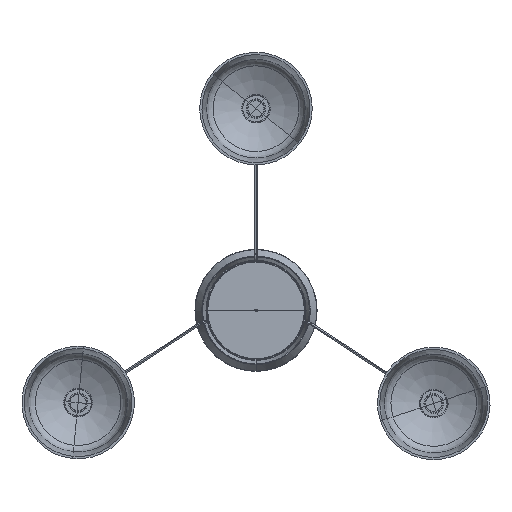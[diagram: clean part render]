
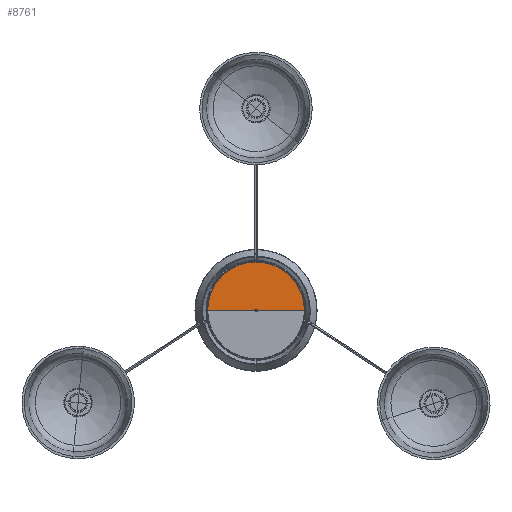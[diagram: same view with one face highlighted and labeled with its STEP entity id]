
A CAD part, top view. The second image highlights one B-rep face of the part: STEP entity #8761.
In plain terms, the highlighted planar face has unit normal (0, 0, 1).
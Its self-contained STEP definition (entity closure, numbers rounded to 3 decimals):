
#1264=FACE_OUTER_BOUND('',#1829,.T.);
#1829=EDGE_LOOP('',(#7303,#7304));
#2334=CIRCLE('',#9644,108.233);
#2862=LINE('',#19309,#3357);
#3357=VECTOR('',#11747,304.8);
#3988=VERTEX_POINT('',#19306);
#3989=VERTEX_POINT('',#19307);
#5143=EDGE_CURVE('',#3989,#3988,#2862,.T.);
#5144=EDGE_CURVE('',#3989,#3988,#2334,.T.);
#7303=ORIENTED_EDGE('',*,*,#5144,.F.);
#7304=ORIENTED_EDGE('',*,*,#5143,.T.);
#8310=PLANE('',#9643);
#8761=ADVANCED_FACE('',(#1264),#8310,.T.);
#9643=AXIS2_PLACEMENT_3D('',#19310,#11748,#11749);
#9644=AXIS2_PLACEMENT_3D('',#19311,#11750,#11751);
#11747=DIRECTION('',(1.,0.,0.));
#11748=DIRECTION('center_axis',(0.,0.,1.));
#11749=DIRECTION('ref_axis',(1.,0.,0.));
#11750=DIRECTION('center_axis',(0.,0.,-1.));
#11751=DIRECTION('ref_axis',(0.809,0.588,0.));
#19306=CARTESIAN_POINT('',(108.233,0.,23.91));
#19307=CARTESIAN_POINT('',(-108.233,0.,23.91));
#19309=CARTESIAN_POINT('',(3.,0.,23.91));
#19310=CARTESIAN_POINT('Origin',(0.,0.,
23.91));
#19311=CARTESIAN_POINT('Origin',(0.,0.,
23.91));
